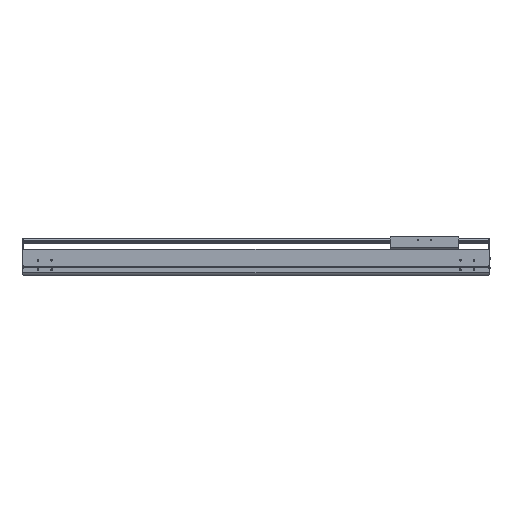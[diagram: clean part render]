
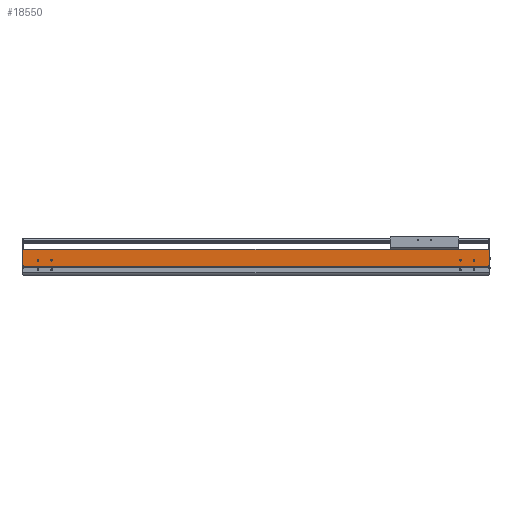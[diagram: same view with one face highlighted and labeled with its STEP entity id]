
A CAD part, top view. The second image highlights one B-rep face of the part: STEP entity #18550.
In plain terms, the highlighted planar face has unit normal (0, 0, 1).
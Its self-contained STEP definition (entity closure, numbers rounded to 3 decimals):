
#506=DIRECTION('',(0.,-1.,0.));
#507=VECTOR('',#506,2.55);
#508=CARTESIAN_POINT('',(0.,34.65,107.));
#509=LINE('',#508,#507);
#2129=DIRECTION('',(1.,0.,0.));
#2130=VECTOR('',#2129,2.);
#2131=CARTESIAN_POINT('',(0.,34.65,107.));
#2132=LINE('',#2131,#2130);
#2137=CARTESIAN_POINT('',(-54.5,54.,107.));
#2138=DIRECTION('',(0.,0.,-1.));
#2139=DIRECTION('',(1.,0.,0.));
#2140=AXIS2_PLACEMENT_3D('',#2137,#2138,#2139);
#2142=CARTESIAN_POINT('',(-54.5,54.,107.));
#2143=DIRECTION('',(0.,0.,-1.));
#2144=DIRECTION('',(-1.,0.,0.));
#2145=AXIS2_PLACEMENT_3D('',#2142,#2143,#2144);
#2147=CARTESIAN_POINT('',(-104.5,54.,107.));
#2148=DIRECTION('',(0.,0.,-1.));
#2149=DIRECTION('',(1.,0.,0.));
#2150=AXIS2_PLACEMENT_3D('',#2147,#2148,#2149);
#2152=CARTESIAN_POINT('',(-104.5,54.,107.));
#2153=DIRECTION('',(0.,0.,-1.));
#2154=DIRECTION('',(-1.,0.,0.));
#2155=AXIS2_PLACEMENT_3D('',#2152,#2153,#2154);
#2157=CARTESIAN_POINT('',(-1654.5,54.,107.));
#2158=DIRECTION('',(0.,0.,-1.));
#2159=DIRECTION('',(1.,0.,0.));
#2160=AXIS2_PLACEMENT_3D('',#2157,#2158,#2159);
#2162=CARTESIAN_POINT('',(-1654.5,54.,107.));
#2163=DIRECTION('',(0.,0.,-1.));
#2164=DIRECTION('',(-1.,0.,0.));
#2165=AXIS2_PLACEMENT_3D('',#2162,#2163,#2164);
#2167=CARTESIAN_POINT('',(-1604.5,54.,107.));
#2168=DIRECTION('',(0.,0.,-1.));
#2169=DIRECTION('',(1.,0.,0.));
#2170=AXIS2_PLACEMENT_3D('',#2167,#2168,#2169);
#2172=CARTESIAN_POINT('',(-1604.5,54.,107.));
#2173=DIRECTION('',(0.,0.,-1.));
#2174=DIRECTION('',(-1.,0.,0.));
#2175=AXIS2_PLACEMENT_3D('',#2172,#2173,#2174);
#2177=DIRECTION('',(0.,-1.,0.));
#2178=VECTOR('',#2177,2.55);
#2179=CARTESIAN_POINT('',(-1709.,34.65,107.));
#2180=LINE('',#2179,#2178);
#2181=DIRECTION('',(0.,-1.,0.));
#2182=VECTOR('',#2181,58.85);
#2183=CARTESIAN_POINT('',(-1711.,93.5,107.));
#2184=LINE('',#2183,#2182);
#2185=DIRECTION('',(0.,1.,0.));
#2186=VECTOR('',#2185,58.85);
#2187=CARTESIAN_POINT('',(2.,34.65,107.));
#2188=LINE('',#2187,#2186);
#2189=DIRECTION('',(1.,0.,0.));
#2190=VECTOR('',#2189,1709.);
#2191=CARTESIAN_POINT('',(-1709.,32.1,107.));
#2192=LINE('',#2191,#2190);
#2301=DIRECTION('',(1.,0.,0.));
#2302=VECTOR('',#2301,2.);
#2303=CARTESIAN_POINT('',(-1711.,34.65,107.));
#2304=LINE('',#2303,#2302);
#2313=DIRECTION('',(-1.,0.,0.));
#2314=VECTOR('',#2313,1713.);
#2315=CARTESIAN_POINT('',(2.,93.5,107.));
#2316=LINE('',#2315,#2314);
#12667=CARTESIAN_POINT('',(-1711.,34.65,107.));
#12668=VERTEX_POINT('',#12667);
#12669=CARTESIAN_POINT('',(-1711.,93.5,107.));
#12670=VERTEX_POINT('',#12669);
#12899=CARTESIAN_POINT('',(-1709.,32.1,107.));
#12900=VERTEX_POINT('',#12899);
#13480=CARTESIAN_POINT('',(0.,32.1,107.));
#13481=VERTEX_POINT('',#13480);
#13482=CARTESIAN_POINT('',(-52.,54.,107.));
#13483=CARTESIAN_POINT('',(-57.,54.,107.));
#13484=VERTEX_POINT('',#13482);
#13485=VERTEX_POINT('',#13483);
#13486=CARTESIAN_POINT('',(-102.,54.,107.));
#13487=CARTESIAN_POINT('',(-107.,54.,107.));
#13488=VERTEX_POINT('',#13486);
#13489=VERTEX_POINT('',#13487);
#13490=CARTESIAN_POINT('',(-1652.,54.,107.));
#13491=CARTESIAN_POINT('',(-1657.,54.,107.));
#13492=VERTEX_POINT('',#13490);
#13493=VERTEX_POINT('',#13491);
#13494=CARTESIAN_POINT('',(-1602.,54.,107.));
#13495=CARTESIAN_POINT('',(-1607.,54.,107.));
#13496=VERTEX_POINT('',#13494);
#13497=VERTEX_POINT('',#13495);
#14697=CARTESIAN_POINT('',(2.,34.65,107.));
#14698=VERTEX_POINT('',#14697);
#14699=CARTESIAN_POINT('',(2.,93.5,107.));
#14700=VERTEX_POINT('',#14699);
#15043=CARTESIAN_POINT('',(0.,34.65,107.));
#15044=VERTEX_POINT('',#15043);
#15231=CARTESIAN_POINT('',(-1709.,34.65,107.));
#15232=VERTEX_POINT('',#15231);
#18508=CARTESIAN_POINT('',(-854.5,62.8,107.));
#18509=DIRECTION('',(0.,0.,1.));
#18510=DIRECTION('',(0.,-1.,0.));
#18511=AXIS2_PLACEMENT_3D('',#18508,#18509,#18510);
#18512=PLANE('',#18511);
#18513=ORIENTED_EDGE('',*,*,#15977,.F.);
#18515=ORIENTED_EDGE('',*,*,#18514,.F.);
#18516=ORIENTED_EDGE('',*,*,#17076,.F.);
#18518=ORIENTED_EDGE('',*,*,#18517,.F.);
#18519=ORIENTED_EDGE('',*,*,#18306,.F.);
#18520=ORIENTED_EDGE('',*,*,#18501,.F.);
#18521=ORIENTED_EDGE('',*,*,#16593,.T.);
#18523=ORIENTED_EDGE('',*,*,#18522,.F.);
#18524=EDGE_LOOP('',(#18513,#18515,#18516,#18518,#18519,#18520,#18521,#18523));
#18525=FACE_OUTER_BOUND('',#18524,.F.);
#18527=ORIENTED_EDGE('',*,*,#18526,.F.);
#18529=ORIENTED_EDGE('',*,*,#18528,.F.);
#18530=EDGE_LOOP('',(#18527,#18529));
#18531=FACE_BOUND('',#18530,.F.);
#18533=ORIENTED_EDGE('',*,*,#18532,.F.);
#18535=ORIENTED_EDGE('',*,*,#18534,.F.);
#18536=EDGE_LOOP('',(#18533,#18535));
#18537=FACE_BOUND('',#18536,.F.);
#18539=ORIENTED_EDGE('',*,*,#18538,.F.);
#18541=ORIENTED_EDGE('',*,*,#18540,.F.);
#18542=EDGE_LOOP('',(#18539,#18541));
#18543=FACE_BOUND('',#18542,.F.);
#18545=ORIENTED_EDGE('',*,*,#18544,.F.);
#18547=ORIENTED_EDGE('',*,*,#18546,.F.);
#18548=EDGE_LOOP('',(#18545,#18547));
#18549=FACE_BOUND('',#18548,.F.);
#18550=ADVANCED_FACE('',(#18525,#18531,#18537,#18543,#18549),#18512,.T.);
#2141=CIRCLE('',#2140,2.5);
#2146=CIRCLE('',#2145,2.5);
#2151=CIRCLE('',#2150,2.5);
#2156=CIRCLE('',#2155,2.5);
#2161=CIRCLE('',#2160,2.5);
#2166=CIRCLE('',#2165,2.5);
#2171=CIRCLE('',#2170,2.5);
#2176=CIRCLE('',#2175,2.5);
#15977=EDGE_CURVE('',#15232,#12900,#2180,.T.);
#16593=EDGE_CURVE('',#15044,#13481,#509,.T.);
#17076=EDGE_CURVE('',#12670,#12668,#2184,.T.);
#18306=EDGE_CURVE('',#14698,#14700,#2188,.T.);
#18501=EDGE_CURVE('',#15044,#14698,#2132,.T.);
#18514=EDGE_CURVE('',#12668,#15232,#2304,.T.);
#18517=EDGE_CURVE('',#14700,#12670,#2316,.T.);
#18522=EDGE_CURVE('',#12900,#13481,#2192,.T.);
#18526=EDGE_CURVE('',#13488,#13489,#2151,.T.);
#18528=EDGE_CURVE('',#13489,#13488,#2156,.T.);
#18532=EDGE_CURVE('',#13492,#13493,#2161,.T.);
#18534=EDGE_CURVE('',#13493,#13492,#2166,.T.);
#18538=EDGE_CURVE('',#13496,#13497,#2171,.T.);
#18540=EDGE_CURVE('',#13497,#13496,#2176,.T.);
#18544=EDGE_CURVE('',#13484,#13485,#2141,.T.);
#18546=EDGE_CURVE('',#13485,#13484,#2146,.T.);
